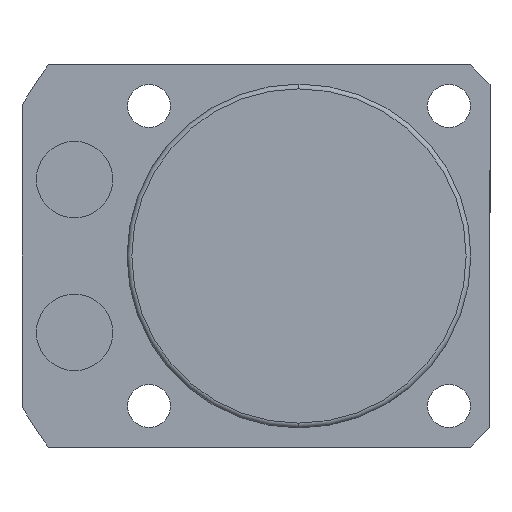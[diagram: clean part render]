
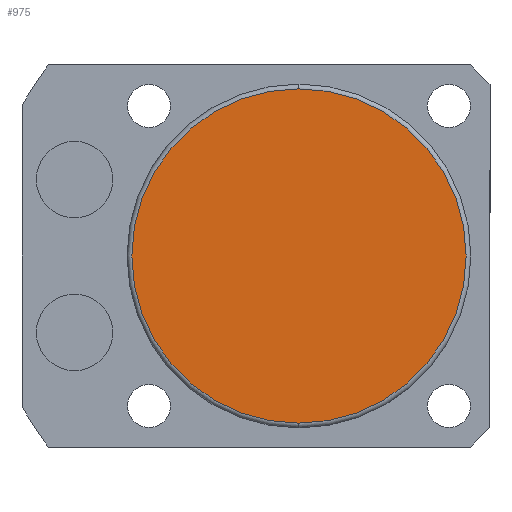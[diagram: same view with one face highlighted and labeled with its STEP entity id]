
A CAD part, front view. The second image highlights one B-rep face of the part: STEP entity #975.
In plain terms, the highlighted planar face has unit normal (0, -1, 0).
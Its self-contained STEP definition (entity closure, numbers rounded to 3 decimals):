
#320 = CARTESIAN_POINT ( 'NONE',  ( 0., -100.5, 0. ) ) ;
#368 = EDGE_CURVE ( 'NONE', #1952, #608, #1818, .T. ) ;
#608 = VERTEX_POINT ( 'NONE', #1921 ) ;
#653 = CIRCLE ( 'NONE', #966, 17.5 ) ;
#706 = FACE_OUTER_BOUND ( 'NONE', #2075, .T. ) ;
#719 = DIRECTION ( 'NONE',  ( 0., -1., 0. ) ) ;
#767 = PLANE ( 'NONE',  #2191 ) ;
#838 = CARTESIAN_POINT ( 'NONE',  ( 0., -100.5, 0. ) ) ;
#966 = AXIS2_PLACEMENT_3D ( 'NONE', #320, #719, #1653 ) ;
#975 = ADVANCED_FACE ( 'NONE', ( #706 ), #767, .T. ) ;
#1004 = DIRECTION ( 'NONE',  ( 0., 0., -1. ) ) ;
#1108 = EDGE_CURVE ( 'NONE', #608, #1952, #653, .T. ) ;
#1203 = ORIENTED_EDGE ( 'NONE', *, *, #368, .T. ) ;
#1224 = DIRECTION ( 'NONE',  ( 0., -1., 0. ) ) ;
#1539 = DIRECTION ( 'NONE',  ( 0., -1., 0. ) ) ;
#1630 = DIRECTION ( 'NONE',  ( 0., 0., -1. ) ) ;
#1653 = DIRECTION ( 'NONE',  ( 0., 0., -1. ) ) ;
#1724 = CARTESIAN_POINT ( 'NONE',  ( 0., -100.5, 17.5 ) ) ;
#1818 = CIRCLE ( 'NONE', #1918, 17.5 ) ;
#1918 = AXIS2_PLACEMENT_3D ( 'NONE', #838, #1224, #1630 ) ;
#1921 = CARTESIAN_POINT ( 'NONE',  ( 0., -100.5, -17.5 ) ) ;
#1952 = VERTEX_POINT ( 'NONE', #1724 ) ;
#2075 = EDGE_LOOP ( 'NONE', ( #2312, #1203 ) ) ;
#2115 = CARTESIAN_POINT ( 'NONE',  ( 0., -100.5, 0. ) ) ;
#2191 = AXIS2_PLACEMENT_3D ( 'NONE', #2115, #1539, #1004 ) ;
#2312 = ORIENTED_EDGE ( 'NONE', *, *, #1108, .T. ) ;
